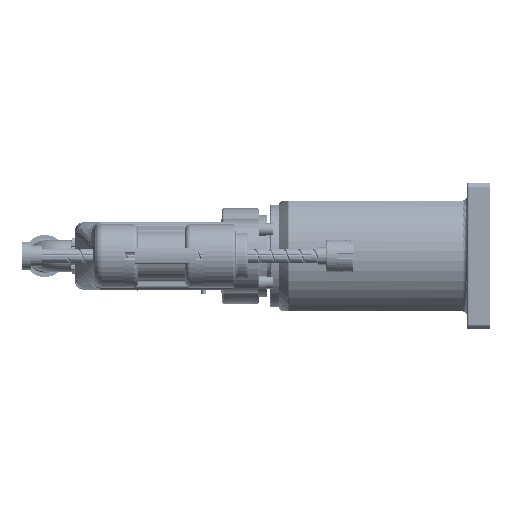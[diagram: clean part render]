
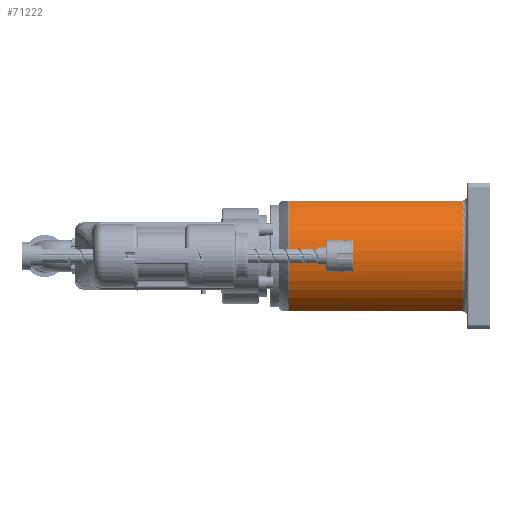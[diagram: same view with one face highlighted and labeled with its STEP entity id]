
A CAD part, left-side view. The second image highlights one B-rep face of the part: STEP entity #71222.
In plain terms, the highlighted cylindrical face has radius 67.5 mm (diameter 135 mm), a partial arc.
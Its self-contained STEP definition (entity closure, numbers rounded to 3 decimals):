
#3890 = EDGE_LOOP ( 'NONE', ( #21428, #101348, #74612, #95501, #63710, #34035 ) ) ;
#4187 = CARTESIAN_POINT ( 'NONE',  ( -36.108, 230., 59.904 ) ) ;
#5394 = CARTESIAN_POINT ( 'NONE',  ( -36.108, 30., 59.904 ) ) ;
#10225 = CARTESIAN_POINT ( 'NONE',  ( -36.346, 218.957, 59.781 ) ) ;
#10379 = DIRECTION ( 'NONE',  ( -1., 0., 0. ) ) ;
#10793 = CARTESIAN_POINT ( 'NONE',  ( -37.129, 219.15, -59.364 ) ) ;
#11391 = VERTEX_POINT ( 'NONE', #95619 ) ;
#16705 = VERTEX_POINT ( 'NONE', #5394 ) ;
#19326 = CARTESIAN_POINT ( 'NONE',  ( -36.108, 218.81, 59.904 ) ) ;
#21336 = DIRECTION ( 'NONE',  ( 0., -1., 0. ) ) ;
#21428 = ORIENTED_EDGE ( 'NONE', *, *, #89697, .T. ) ;
#28508 = CIRCLE ( 'NONE', #121742, 67.5 ) ;
#30911 = CARTESIAN_POINT ( 'NONE',  ( -37.393, 219.172, -59.22 ) ) ;
#34035 = ORIENTED_EDGE ( 'NONE', *, *, #81841, .T. ) ;
#36457 = EDGE_CURVE ( 'NONE', #16705, #80929, #88110, .T. ) ;
#36674 = DIRECTION ( 'NONE',  ( 0., -1., 0. ) ) ;
#44698 = EDGE_CURVE ( 'NONE', #104975, #11391, #78590, .T. ) ;
#52748 = CARTESIAN_POINT ( 'NONE',  ( -37.129, 219.15, 59.364 ) ) ;
#53354 = FACE_OUTER_BOUND ( 'NONE', #3890, .T. ) ;
#53514 = B_SPLINE_CURVE_WITH_KNOTS ( 'NONE', 3,
 ( #19326, #10225, #118111, #52748, #84765, #73737 ),
 .UNSPECIFIED., .F., .F.,
 ( 4, 2, 4 ),
 ( 0., 0.001, 0.002 ),
 .UNSPECIFIED. ) ;
#61280 = AXIS2_PLACEMENT_3D ( 'NONE', #73182, #128534, #128029 ) ;
#63710 = ORIENTED_EDGE ( 'NONE', *, *, #36457, .T. ) ;
#63714 = DIRECTION ( 'NONE',  ( 0., 1., 0. ) ) ;
#64633 = DIRECTION ( 'NONE',  ( -1., 0., 0. ) ) ;
#71222 = ADVANCED_FACE ( 'NONE', ( #53354 ), #82395, .T. ) ;
#73182 = CARTESIAN_POINT ( 'NONE',  ( -5., 30., 0. ) ) ;
#73737 = CARTESIAN_POINT ( 'NONE',  ( -37.658, 219.172, 59.074 ) ) ;
#74612 = ORIENTED_EDGE ( 'NONE', *, *, #85953, .T. ) ;
#75295 = CARTESIAN_POINT ( 'NONE',  ( -36.346, 218.956, -59.781 ) ) ;
#78590 = B_SPLINE_CURVE_WITH_KNOTS ( 'NONE', 3,
 ( #97678, #30911, #10793, #85796, #75295, #86258 ),
 .UNSPECIFIED., .F., .F.,
 ( 4, 2, 4 ),
 ( 0., 0.001, 0.002 ),
 .UNSPECIFIED. ) ;
#80615 = DIRECTION ( 'NONE',  ( 0., 1., 0. ) ) ;
#80929 = VERTEX_POINT ( 'NONE', #92565 ) ;
#81841 = EDGE_CURVE ( 'NONE', #80929, #128576, #53514, .T. ) ;
#82395 = CYLINDRICAL_SURFACE ( 'NONE', #116340, 67.5 ) ;
#84765 = CARTESIAN_POINT ( 'NONE',  ( -37.393, 219.172, 59.22 ) ) ;
#85796 = CARTESIAN_POINT ( 'NONE',  ( -36.607, 219.043, -59.643 ) ) ;
#85953 = EDGE_CURVE ( 'NONE', #11391, #131176, #130860, .T. ) ;
#86258 = CARTESIAN_POINT ( 'NONE',  ( -36.108, 218.81, -59.904 ) ) ;
#87733 = CARTESIAN_POINT ( 'NONE',  ( -5., 219.172, 0. ) ) ;
#88110 = LINE ( 'NONE', #4187, #117095 ) ;
#89697 = EDGE_CURVE ( 'NONE', #128576, #104975, #28508, .T. ) ;
#90588 = CARTESIAN_POINT ( 'NONE',  ( -36.108, 230., -59.904 ) ) ;
#92565 = CARTESIAN_POINT ( 'NONE',  ( -36.108, 218.81, 59.904 ) ) ;
#95501 = ORIENTED_EDGE ( 'NONE', *, *, #126095, .T. ) ;
#95619 = CARTESIAN_POINT ( 'NONE',  ( -36.108, 218.81, -59.904 ) ) ;
#96775 = VECTOR ( 'NONE', #36674, 1000. ) ;
#97678 = CARTESIAN_POINT ( 'NONE',  ( -37.658, 219.172, -59.074 ) ) ;
#98292 = CIRCLE ( 'NONE', #61280, 67.5 ) ;
#101348 = ORIENTED_EDGE ( 'NONE', *, *, #44698, .T. ) ;
#104975 = VERTEX_POINT ( 'NONE', #124094 ) ;
#116340 = AXIS2_PLACEMENT_3D ( 'NONE', #129990, #63714, #64633 ) ;
#117095 = VECTOR ( 'NONE', #80615, 1000. ) ;
#118111 = CARTESIAN_POINT ( 'NONE',  ( -36.608, 219.043, 59.643 ) ) ;
#120785 = CARTESIAN_POINT ( 'NONE',  ( -36.108, 30., -59.904 ) ) ;
#121742 = AXIS2_PLACEMENT_3D ( 'NONE', #87733, #21336, #10379 ) ;
#124094 = CARTESIAN_POINT ( 'NONE',  ( -37.658, 219.172, -59.074 ) ) ;
#126095 = EDGE_CURVE ( 'NONE', #131176, #16705, #98292, .T. ) ;
#128029 = DIRECTION ( 'NONE',  ( 1., 0., 0. ) ) ;
#128534 = DIRECTION ( 'NONE',  ( 0., 1., 0. ) ) ;
#128576 = VERTEX_POINT ( 'NONE', #140338 ) ;
#129990 = CARTESIAN_POINT ( 'NONE',  ( -5., 230., 0. ) ) ;
#130860 = LINE ( 'NONE', #90588, #96775 ) ;
#131176 = VERTEX_POINT ( 'NONE', #120785 ) ;
#140338 = CARTESIAN_POINT ( 'NONE',  ( -37.658, 219.172, 59.074 ) ) ;
